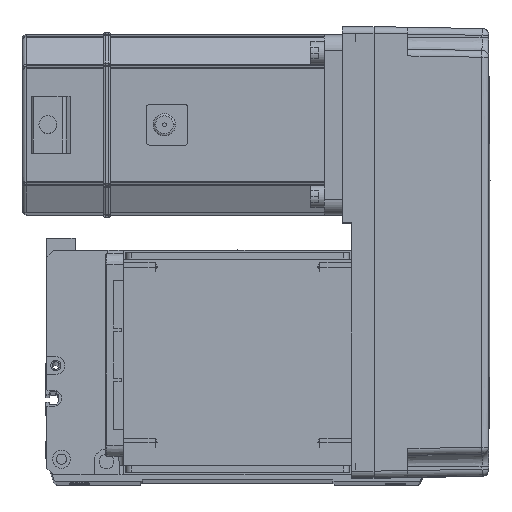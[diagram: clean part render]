
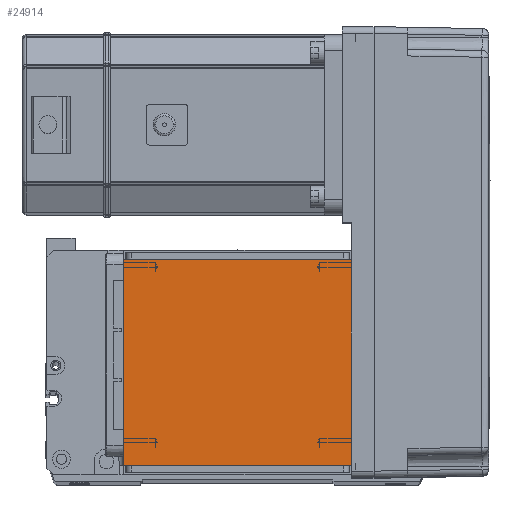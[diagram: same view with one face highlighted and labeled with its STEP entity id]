
A CAD part, top view. The second image highlights one B-rep face of the part: STEP entity #24914.
In plain terms, the highlighted planar face has unit normal (0, 0, 1).
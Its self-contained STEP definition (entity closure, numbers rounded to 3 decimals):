
#2969 = VECTOR ( 'NONE', #55170, 1000. ) ;
#3849 = DIRECTION ( 'NONE',  ( 1., 0., 0. ) ) ;
#9090 = FACE_OUTER_BOUND ( 'NONE', #54407, .T. ) ;
#9759 = ORIENTED_EDGE ( 'NONE', *, *, #54645, .F. ) ;
#10695 = EDGE_CURVE ( 'NONE', #33926, #57836, #43395, .T. ) ;
#12539 = PLANE ( 'NONE',  #49881 ) ;
#14393 = LINE ( 'NONE', #56371, #51424 ) ;
#15717 = CARTESIAN_POINT ( 'NONE',  ( 50.5, 122., 115. ) ) ;
#16373 = DIRECTION ( 'NONE',  ( 1., 0., 0. ) ) ;
#18115 = VERTEX_POINT ( 'NONE', #55295 ) ;
#20068 = ORIENTED_EDGE ( 'NONE', *, *, #10695, .T. ) ;
#20906 = EDGE_CURVE ( 'NONE', #35245, #57836, #14393, .T. ) ;
#24106 = CARTESIAN_POINT ( 'NONE',  ( -70.004, 111.5, 115. ) ) ;
#24914 = ADVANCED_FACE ( 'NONE', ( #9090 ), #12539, .T. ) ;
#27633 = ORIENTED_EDGE ( 'NONE', *, *, #20906, .F. ) ;
#32572 = VECTOR ( 'NONE', #16373, 1000. ) ;
#33926 = VERTEX_POINT ( 'NONE', #53663 ) ;
#33972 = DIRECTION ( 'NONE',  ( -1., 0., 0. ) ) ;
#35236 = DIRECTION ( 'NONE',  ( 0., -1., 0. ) ) ;
#35245 = VERTEX_POINT ( 'NONE', #56254 ) ;
#39182 = VECTOR ( 'NONE', #35236, 1000. ) ;
#43059 = LINE ( 'NONE', #24106, #32572 ) ;
#43395 = LINE ( 'NONE', #48374, #39182 ) ;
#43867 = CARTESIAN_POINT ( 'NONE',  ( 0., 0., 115. ) ) ;
#45151 = EDGE_CURVE ( 'NONE', #35245, #18115, #52630, .T. ) ;
#45904 = ORIENTED_EDGE ( 'NONE', *, *, #45151, .T. ) ;
#48374 = CARTESIAN_POINT ( 'NONE',  ( -50.5, 122., 115. ) ) ;
#49881 = AXIS2_PLACEMENT_3D ( 'NONE', #43867, #57492, #3849 ) ;
#51424 = VECTOR ( 'NONE', #33972, 1000. ) ;
#52630 = LINE ( 'NONE', #15717, #2969 ) ;
#53663 = CARTESIAN_POINT ( 'NONE',  ( -50.5, 111.5, 115. ) ) ;
#54407 = EDGE_LOOP ( 'NONE', ( #9759, #20068, #27633, #45904 ) ) ;
#54645 = EDGE_CURVE ( 'NONE', #33926, #18115, #43059, .T. ) ;
#55170 = DIRECTION ( 'NONE',  ( 0., 1., 0. ) ) ;
#55295 = CARTESIAN_POINT ( 'NONE',  ( 50.5, 111.5, 115. ) ) ;
#56254 = CARTESIAN_POINT ( 'NONE',  ( 50.5, 20., 115. ) ) ;
#56371 = CARTESIAN_POINT ( 'NONE',  ( -70.004, 20., 115. ) ) ;
#56582 = CARTESIAN_POINT ( 'NONE',  ( -50.5, 20., 115. ) ) ;
#57492 = DIRECTION ( 'NONE',  ( 0., 0., 1. ) ) ;
#57836 = VERTEX_POINT ( 'NONE', #56582 ) ;
